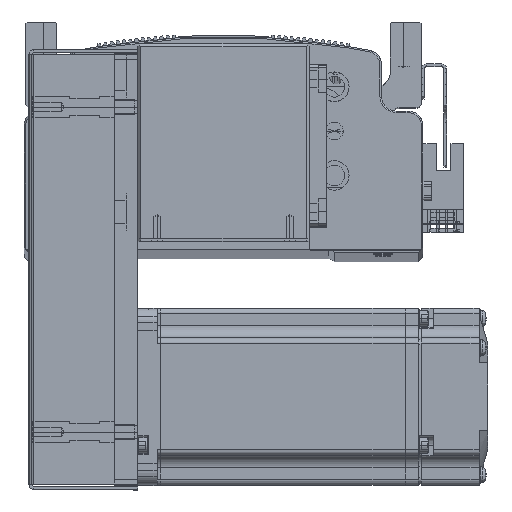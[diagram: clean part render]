
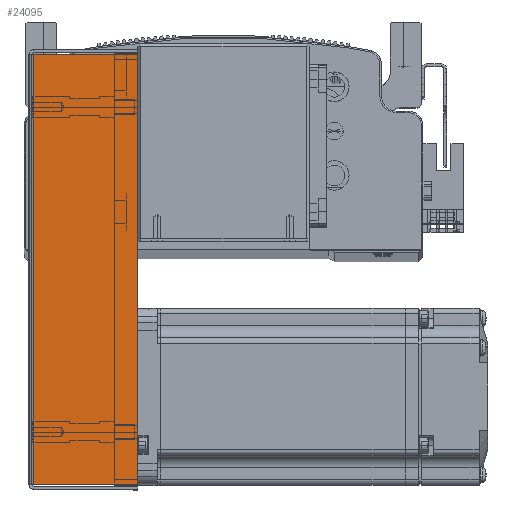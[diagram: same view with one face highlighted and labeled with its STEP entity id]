
A CAD part, top view. The second image highlights one B-rep face of the part: STEP entity #24095.
In plain terms, the highlighted planar face has unit normal (0, 0, 1) as drawn and (0, 0, -1) by its records, which use the part's own axes.
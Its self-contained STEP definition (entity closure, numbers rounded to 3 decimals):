
#9477 = EDGE_LOOP ( 'NONE', ( #64259, #88168, #55015, #55110 ) ) ;
#10424 = AXIS2_PLACEMENT_3D ( 'NONE', #32460, #32462, #32467 ) ;
#18001 = CARTESIAN_POINT ( 'NONE',  ( 72.793, 0.737, -34.5 ) ) ;
#24095 = ADVANCED_FACE ( 'NONE', ( #51583 ), #32427, .F. ) ;
#26972 = CARTESIAN_POINT ( 'NONE',  ( -72.793, 36., -34.5 ) ) ;
#28258 = CARTESIAN_POINT ( 'NONE',  ( -72.793, 0.737, -34.5 ) ) ;
#28276 = CARTESIAN_POINT ( 'NONE',  ( 72.793, 36., -34.5 ) ) ;
#32427 = PLANE ( 'NONE',  #10424 ) ;
#32460 = CARTESIAN_POINT ( 'NONE',  ( 0., 0., -34.5 ) ) ;
#32462 = DIRECTION ( 'NONE',  ( 0., 0., 1. ) ) ;
#32467 = DIRECTION ( 'NONE',  ( 0., -1., 0. ) ) ;
#43851 = EDGE_CURVE ( 'NONE', #61189, #61304, #72031, .T. ) ;
#43853 = EDGE_CURVE ( 'NONE', #61245, #61219, #72029, .T. ) ;
#43876 = EDGE_CURVE ( 'NONE', #61189, #61245, #72105, .T. ) ;
#43882 = EDGE_CURVE ( 'NONE', #61304, #61219, #72093, .T. ) ;
#51583 = FACE_OUTER_BOUND ( 'NONE', #9477, .T. ) ;
#52492 = CARTESIAN_POINT ( 'NONE',  ( 0., 36., -34.5 ) ) ;
#52493 = DIRECTION ( 'NONE',  ( 1., 0., 0. ) ) ;
#52522 = DIRECTION ( 'NONE',  ( 1., 0., 0. ) ) ;
#52535 = CARTESIAN_POINT ( 'NONE',  ( 74.5, 0.737, -34.5 ) ) ;
#52569 = CARTESIAN_POINT ( 'NONE',  ( 72.793, 0., -34.5 ) ) ;
#52593 = CARTESIAN_POINT ( 'NONE',  ( -72.793, 0., -34.5 ) ) ;
#52611 = DIRECTION ( 'NONE',  ( 0., 1., 0. ) ) ;
#52650 = DIRECTION ( 'NONE',  ( 0., 1., 0. ) ) ;
#55015 = ORIENTED_EDGE ( 'NONE', *, *, #43853, .T. ) ;
#55110 = ORIENTED_EDGE ( 'NONE', *, *, #43882, .F. ) ;
#61189 = VERTEX_POINT ( 'NONE', #28258 ) ;
#61219 = VERTEX_POINT ( 'NONE', #28276 ) ;
#61245 = VERTEX_POINT ( 'NONE', #26972 ) ;
#61304 = VERTEX_POINT ( 'NONE', #18001 ) ;
#64259 = ORIENTED_EDGE ( 'NONE', *, *, #43851, .F. ) ;
#72027 = VECTOR ( 'NONE', #52522, 1000. ) ;
#72029 = LINE ( 'NONE', #52492, #72109 ) ;
#72031 = LINE ( 'NONE', #52535, #72027 ) ;
#72041 = VECTOR ( 'NONE', #52650, 1000. ) ;
#72084 = VECTOR ( 'NONE', #52611, 1000. ) ;
#72093 = LINE ( 'NONE', #52569, #72041 ) ;
#72105 = LINE ( 'NONE', #52593, #72084 ) ;
#72109 = VECTOR ( 'NONE', #52493, 1000. ) ;
#88168 = ORIENTED_EDGE ( 'NONE', *, *, #43876, .T. ) ;
